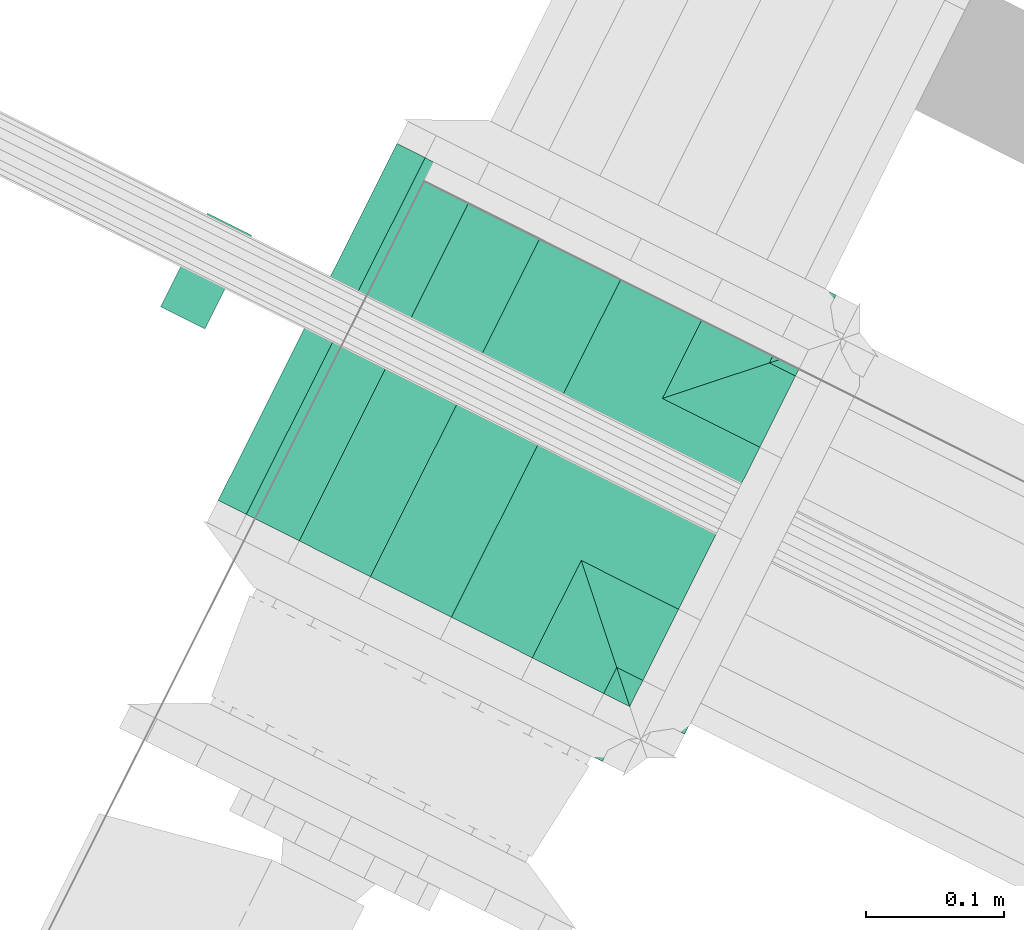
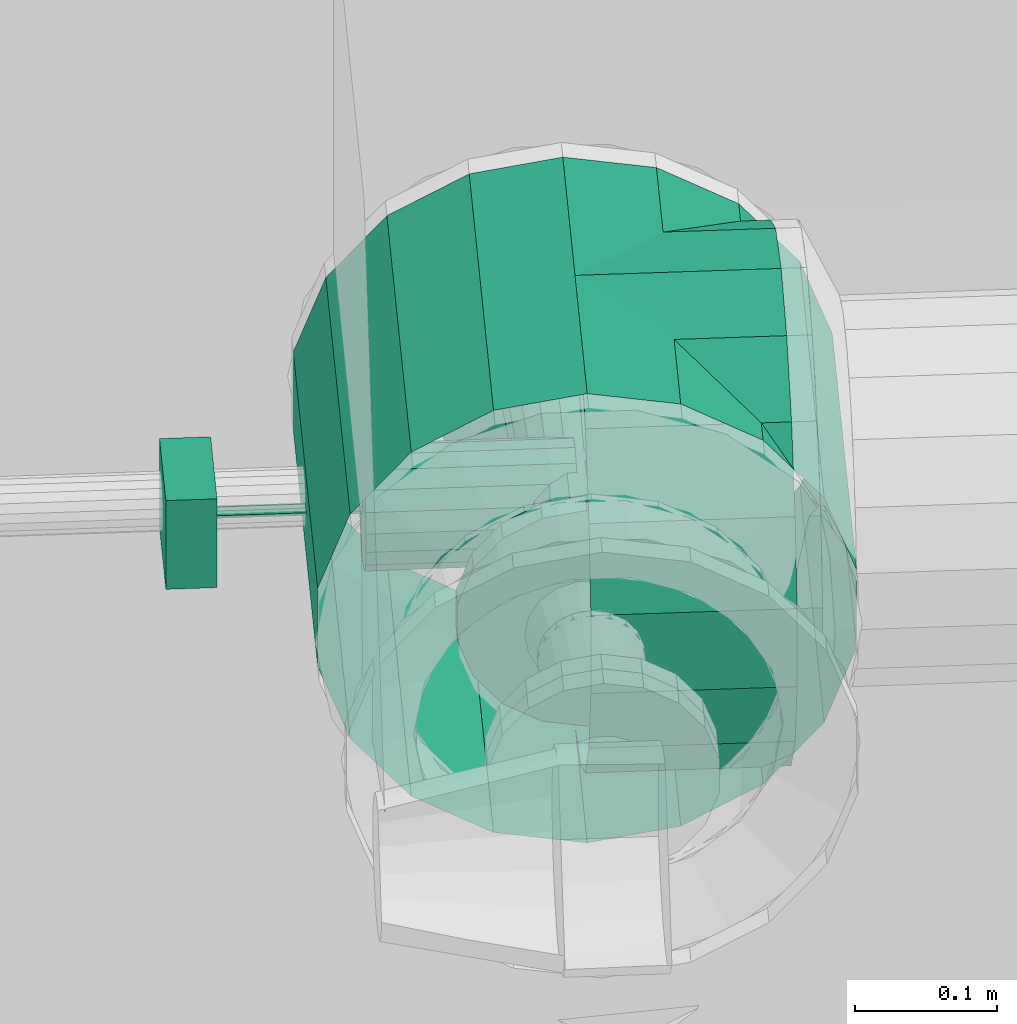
# One storey, part 149 of 206: 1 flow controller.
"""IFC2X3 building model written with IfcOpenShell, lengths in metres."""

from ifc_helpers import new_model, si_unit, derived_unit, direction, frame, origin, place, context, subcontext, project, spatial, face_set, surface_model, source, transform, mapped, material, type_object, type_shapes, element, save


model = new_model("IFC2X3")

# Units and contexts
model_context = context("Model", 3, precision=5.2338327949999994e-05, world=origin(), true_north=direction((0.0, 1.0)))
body_context = subcontext(model_context, "Body", "Model", "MODEL_VIEW")
ifc_project = project(units=[si_unit("LENGTHUNIT", "METRE"), si_unit("AREAUNIT", "SQUARE_METRE"), si_unit("VOLUMEUNIT", "CUBIC_METRE"), si_unit("MASSUNIT", "GRAM", prefix="KILO"), si_unit("PLANEANGLEUNIT", "RADIAN"), derived_unit("THERMALTRANSMITTANCEUNIT", [(si_unit("MASSUNIT", "GRAM", prefix="KILO"), 1), (si_unit("THERMODYNAMICTEMPERATUREUNIT", "KELVIN"), -1), (si_unit("TIMEUNIT", "SECOND"), -3)])], contexts=[model_context])

# Site, building, storey
site_placement = place(None, frame((0.0, 0.0, 0.0), z_axis=(0.0, 0.0, 1.0), x_axis=(0.8939966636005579, -0.4480736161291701, 0.0)))
site = spatial("IfcSite", under=ifc_project, at=site_placement, Name="Default", CompositionType="ELEMENT")
building_placement = place(site_placement, origin())
building = spatial("IfcBuilding", under=site, at=building_placement, CompositionType="ELEMENT")
storey_placement = place(building_placement, origin())
storey = spatial("IfcBuildingStorey", under=building, at=storey_placement, Name="Erdgeschoss", CompositionType="ELEMENT", Elevation=0.0)

# Flow controller
ifc_material = material(Name="IfcSurfaceStyle #1741")
distribution_element_type = type_object("IfcDistributionElementType", Name="Dreiwegeventil 323126:Dreiwegeventil 323126", material=ifc_material)
shared_shape = source(origin(), body_context, "Body", "SurfaceModel", [
    surface_model("IfcFaceBasedSurfaceModel", [(29.706127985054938, 9.66936948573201, 2.35205), (29.706127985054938, 9.745469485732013, 2.35205), (29.706127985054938, 9.745469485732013, 2.2759500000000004), (29.706127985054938, 9.66936948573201, 2.2759500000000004), (29.670127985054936, 9.745469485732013, 2.27595), (29.670127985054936, 9.66936948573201, 2.27595), (29.670127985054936, 9.745469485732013, 2.35205), (29.670127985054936, 9.66936948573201, 2.35205), (29.960127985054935, 9.562419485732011, 2.2215), (29.928491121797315, 9.562419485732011, 2.227078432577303), (29.928491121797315, 9.58041948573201, 2.227078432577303), (29.960127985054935, 9.58041948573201, 2.2215), (29.900670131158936, 9.562419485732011, 2.2431408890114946), (29.900670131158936, 9.58041948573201, 2.2431408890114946), (29.88002063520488, 9.562419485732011, 2.267750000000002), (29.88002063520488, 9.58041948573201, 2.267750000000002), (29.869033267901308, 9.562419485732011, 2.2979375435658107), (29.869033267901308, 9.58041948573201, 2.2979375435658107), (29.869033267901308, 9.562419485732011, 2.330062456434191), (29.869033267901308, 9.58041948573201, 2.330062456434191), (29.88002063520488, 9.562419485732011, 2.360249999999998), (29.88002063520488, 9.58041948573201, 2.360249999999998), (29.900670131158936, 9.562419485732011, 2.3848591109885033), (29.900670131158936, 9.58041948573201, 2.3848591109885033), (29.928491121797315, 9.562419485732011, 2.4009215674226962), (29.928491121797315, 9.58041948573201, 2.4009215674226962), (29.960127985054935, 9.562419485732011, 2.4065), (29.960127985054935, 9.58041948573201, 2.4065), (29.991764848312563, 9.562419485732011, 2.4009215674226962), (29.991764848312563, 9.58041948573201, 2.4009215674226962), (30.019585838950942, 9.562419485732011, 2.3848591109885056), (30.019585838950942, 9.58041948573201, 2.3848591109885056), (30.040235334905, 9.562419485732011, 2.360250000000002), (30.040235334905, 9.58041948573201, 2.360250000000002), (30.051222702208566, 9.562419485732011, 2.330062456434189), (30.051222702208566, 9.58041948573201, 2.330062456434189), (30.051222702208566, 9.562419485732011, 2.2979375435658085), (30.051222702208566, 9.58041948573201, 2.2979375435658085), (30.040235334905, 9.562419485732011, 2.267749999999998), (30.040235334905, 9.58041948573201, 2.267749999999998), (30.019585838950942, 9.562419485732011, 2.2431408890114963), (30.019585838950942, 9.58041948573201, 2.2431408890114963), (29.991764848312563, 9.562419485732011, 2.227078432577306), (29.991764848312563, 9.58041948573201, 2.227078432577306), (29.960127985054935, 9.562419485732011, 2.314), (29.960127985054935, 9.580419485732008, 2.314), (30.00512798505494, 9.58041948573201, 2.314), (30.00241415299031, 9.58041948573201, 2.2986090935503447), (29.99588328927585, 9.70741948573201, 2.3009861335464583), (29.99817798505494, 9.70741948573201, 2.314000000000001), (29.99459998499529, 9.58041948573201, 2.2850745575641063), (29.989275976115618, 9.70741948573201, 2.289541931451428), (29.98262798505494, 9.58041948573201, 2.2750288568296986), (29.979152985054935, 9.70741948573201, 2.2810477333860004), (29.96794215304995, 9.58041948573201, 2.2696836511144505), (29.966735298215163, 9.70741948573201, 2.276528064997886), (29.952313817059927, 9.58041948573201, 2.2696836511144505), (29.95352067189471, 9.70741948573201, 2.276528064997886), (29.93762798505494, 9.58041948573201, 2.2750288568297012), (29.94110298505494, 9.70741948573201, 2.2810477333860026), (29.925655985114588, 9.58041948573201, 2.285074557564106), (29.93097999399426, 9.70741948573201, 2.2895419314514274), (29.917841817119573, 9.58041948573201, 2.2986090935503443), (29.92437268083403, 9.70741948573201, 2.300986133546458), (29.915127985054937, 9.58041948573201, 2.314000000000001), (29.92207798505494, 9.70741948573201, 2.314000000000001), (29.917841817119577, 9.58041948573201, 2.3293909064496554), (29.92437268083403, 9.70741948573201, 2.3270138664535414), (29.925655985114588, 9.58041948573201, 2.3429254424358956), (29.93097999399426, 9.70741948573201, 2.338458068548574), (29.93762798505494, 9.58041948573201, 2.352971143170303), (29.94110298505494, 9.70741948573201, 2.3469522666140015), (29.952313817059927, 9.58041948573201, 2.3583163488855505), (29.95352067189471, 9.70741948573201, 2.351471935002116), (29.96794215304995, 9.58041948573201, 2.358316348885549), (29.966735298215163, 9.70741948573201, 2.3514719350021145), (29.98262798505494, 9.58041948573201, 2.352971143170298), (29.979152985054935, 9.70741948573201, 2.3469522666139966), (29.99459998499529, 9.58041948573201, 2.342925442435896), (29.989275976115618, 9.70741948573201, 2.3384580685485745), (30.00241415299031, 9.58041948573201, 2.3293909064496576), (29.99588328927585, 9.70741948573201, 2.3270138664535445), (30.00241415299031, 9.834419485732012, 2.2986090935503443), (30.005127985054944, 9.834419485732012, 2.3139999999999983), (29.99459998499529, 9.834419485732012, 2.2850745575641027), (29.982627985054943, 9.834419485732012, 2.275028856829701), (29.96794215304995, 9.834419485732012, 2.2696836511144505), (29.952313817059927, 9.834419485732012, 2.2696836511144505), (29.93762798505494, 9.834419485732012, 2.275028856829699), (29.92565598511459, 9.834419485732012, 2.285074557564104), (29.917841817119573, 9.834419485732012, 2.298609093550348), (29.915127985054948, 9.834419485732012, 2.313999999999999), (29.917841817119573, 9.834419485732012, 2.329390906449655), (29.925655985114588, 9.834419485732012, 2.3429254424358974), (29.93762798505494, 9.834419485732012, 2.352971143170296), (29.952313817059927, 9.834419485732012, 2.3583163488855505), (29.96794215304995, 9.834419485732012, 2.35831634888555), (29.982627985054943, 9.834419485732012, 2.3529711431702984), (29.99459998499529, 9.834419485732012, 2.3429254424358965), (30.002414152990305, 9.834419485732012, 2.3293909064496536), (29.960127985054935, 9.834419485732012, 2.2215), (29.928491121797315, 9.834419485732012, 2.227078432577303), (29.928491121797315, 9.85241948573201, 2.227078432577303), (29.960127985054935, 9.85241948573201, 2.2215), (29.900670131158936, 9.834419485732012, 2.2431408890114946), (29.900670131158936, 9.85241948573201, 2.2431408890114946), (29.88002063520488, 9.834419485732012, 2.267750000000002), (29.88002063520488, 9.85241948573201, 2.267750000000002), (29.869033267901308, 9.834419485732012, 2.2979375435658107), (29.869033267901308, 9.85241948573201, 2.2979375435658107), (29.869033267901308, 9.834419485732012, 2.330062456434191), (29.869033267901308, 9.85241948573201, 2.330062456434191), (29.88002063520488, 9.834419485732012, 2.360249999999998), (29.88002063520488, 9.85241948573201, 2.360249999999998), (29.900670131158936, 9.834419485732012, 2.3848591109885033), (29.900670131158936, 9.85241948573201, 2.3848591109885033), (29.928491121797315, 9.834419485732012, 2.4009215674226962), (29.928491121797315, 9.85241948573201, 2.4009215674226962), (29.960127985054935, 9.834419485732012, 2.4065), (29.960127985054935, 9.85241948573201, 2.4065), (29.991764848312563, 9.834419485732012, 2.4009215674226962), (29.991764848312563, 9.85241948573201, 2.4009215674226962), (30.019585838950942, 9.834419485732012, 2.3848591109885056), (30.019585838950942, 9.85241948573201, 2.3848591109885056), (30.040235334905, 9.834419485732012, 2.360250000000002), (30.040235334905, 9.85241948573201, 2.360250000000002), (30.051222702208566, 9.834419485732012, 2.330062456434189), (30.051222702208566, 9.85241948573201, 2.330062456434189), (30.051222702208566, 9.834419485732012, 2.2979375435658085), (30.051222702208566, 9.85241948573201, 2.2979375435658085), (30.040235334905, 9.834419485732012, 2.267749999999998), (30.040235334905, 9.85241948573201, 2.267749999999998), (30.019585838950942, 9.834419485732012, 2.2431408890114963), (30.019585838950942, 9.85241948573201, 2.2431408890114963), (29.991764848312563, 9.834419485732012, 2.227078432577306), (29.991764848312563, 9.85241948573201, 2.227078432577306), (29.960127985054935, 9.83441948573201, 2.314), (29.960127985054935, 9.85241948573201, 2.314), (29.960127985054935, 9.70741948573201, 2.269), (29.960127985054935, 9.692028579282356, 2.271713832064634), (29.810627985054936, 9.692028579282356, 2.271713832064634), (29.810627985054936, 9.70741948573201, 2.269), (29.960127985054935, 9.678494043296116, 2.279528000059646), (29.810627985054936, 9.678494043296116, 2.279528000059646), (29.960127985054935, 9.66844834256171, 2.291499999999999), (29.810627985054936, 9.66844834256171, 2.291499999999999), (29.960127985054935, 9.66310313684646, 2.3061858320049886), (29.810627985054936, 9.66310313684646, 2.3061858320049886), (29.960127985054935, 9.66310313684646, 2.321814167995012), (29.810627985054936, 9.66310313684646, 2.321814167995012), (29.960127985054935, 9.66844834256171, 2.3365000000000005), (29.810627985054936, 9.66844834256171, 2.3365000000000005), (29.960127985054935, 9.678494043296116, 2.3484719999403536), (29.810627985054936, 9.678494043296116, 2.3484719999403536), (29.960127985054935, 9.692028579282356, 2.356286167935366), (29.810627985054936, 9.692028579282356, 2.356286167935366), (29.960127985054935, 9.70741948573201, 2.3589999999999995), (29.810627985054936, 9.70741948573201, 2.3589999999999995), (29.960127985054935, 9.722810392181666, 2.356286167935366), (29.810627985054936, 9.722810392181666, 2.356286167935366), (29.960127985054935, 9.736344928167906, 2.348471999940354), (29.810627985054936, 9.736344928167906, 2.348471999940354), (29.960127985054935, 9.746390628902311, 2.3364999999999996), (29.810627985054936, 9.746390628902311, 2.3364999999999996), (29.960127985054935, 9.751735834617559, 2.321814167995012), (29.810627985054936, 9.751735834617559, 2.321814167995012), (29.960127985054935, 9.751735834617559, 2.306185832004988), (29.810627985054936, 9.751735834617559, 2.306185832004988), (29.960127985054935, 9.746390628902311, 2.2915), (29.810627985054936, 9.746390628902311, 2.2915), (29.960127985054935, 9.736344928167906, 2.2795280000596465), (29.810627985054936, 9.736344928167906, 2.2795280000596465), (29.960127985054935, 9.722810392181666, 2.271713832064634), (29.810627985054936, 9.722810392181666, 2.271713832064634), (29.960127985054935, 9.70741948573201, 2.314), (29.810627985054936, 9.70741948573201, 2.314), (29.810627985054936, 9.70741948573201, 2.309499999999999), (29.810627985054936, 9.704237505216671, 2.31081801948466), (29.706127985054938, 9.704237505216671, 2.31081801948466), (29.706127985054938, 9.70741948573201, 2.309499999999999), (29.810627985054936, 9.70291948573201, 2.3139999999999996), (29.706127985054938, 9.70291948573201, 2.3139999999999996), (29.810627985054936, 9.704237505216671, 2.31718198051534), (29.706127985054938, 9.704237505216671, 2.31718198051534), (29.810627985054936, 9.70741948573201, 2.3185000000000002), (29.706127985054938, 9.70741948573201, 2.3185000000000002), (29.810627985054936, 9.71060146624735, 2.3171819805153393), (29.706127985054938, 9.71060146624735, 2.3171819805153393), (29.810627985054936, 9.711919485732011, 2.3140000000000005), (29.706127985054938, 9.711919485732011, 2.3140000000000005), (29.810627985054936, 9.71060146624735, 2.31081801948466), (29.706127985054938, 9.71060146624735, 2.31081801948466), (29.706127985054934, 9.707419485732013, 2.314), (29.960127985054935, 9.66936948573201, 2.3139999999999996), (29.960127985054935, 9.671664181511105, 2.300986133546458), (30.087127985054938, 9.665133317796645, 2.2986090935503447), (30.087127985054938, 9.662419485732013, 2.3140000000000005), (29.960127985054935, 9.678271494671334, 2.289541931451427), (30.087127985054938, 9.672947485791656, 2.285074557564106), (29.960127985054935, 9.68839448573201, 2.2810477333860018), (30.087127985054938, 9.684919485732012, 2.2750288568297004), (29.960127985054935, 9.700812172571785, 2.276528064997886), (30.087127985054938, 9.699605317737, 2.2696836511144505), (29.960127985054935, 9.714026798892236, 2.2765280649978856), (30.087127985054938, 9.715233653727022, 2.2696836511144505), (29.960127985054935, 9.72644448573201, 2.2810477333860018), (30.087127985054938, 9.72991948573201, 2.275028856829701), (29.960127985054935, 9.736567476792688, 2.2895419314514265), (30.087127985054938, 9.741891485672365, 2.2850745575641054), (29.960127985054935, 9.743174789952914, 2.3009861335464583), (30.087127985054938, 9.749705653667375, 2.2986090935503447), (29.960127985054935, 9.74546948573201, 2.3139999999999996), (30.087127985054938, 9.752419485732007, 2.314), (29.960127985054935, 9.743174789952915, 2.327013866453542), (30.087127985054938, 9.749705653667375, 2.3293909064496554), (29.960127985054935, 9.736567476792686, 2.3384580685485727), (30.087127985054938, 9.741891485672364, 2.3429254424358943), (29.960127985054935, 9.72644448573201, 2.346952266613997), (30.087127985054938, 9.72991948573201, 2.352971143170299), (29.960127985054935, 9.714026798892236, 2.3514719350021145), (30.087127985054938, 9.715233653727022, 2.35831634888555), (29.960127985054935, 9.700812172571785, 2.351471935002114), (30.087127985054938, 9.699605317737, 2.3583163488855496), (29.960127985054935, 9.688394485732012, 2.346952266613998), (30.087127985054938, 9.684919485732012, 2.3529711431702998), (29.960127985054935, 9.678271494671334, 2.3384580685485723), (30.087127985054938, 9.672947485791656, 2.342925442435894), (29.960127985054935, 9.671664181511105, 2.327013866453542), (30.087127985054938, 9.665133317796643, 2.329390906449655), (30.087127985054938, 9.70741948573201, 2.2215000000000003), (30.087127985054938, 9.739056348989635, 2.2270784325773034), (30.10512798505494, 9.739056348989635, 2.2270784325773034), (30.10512798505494, 9.70741948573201, 2.2215000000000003), (30.087127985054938, 9.766877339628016, 2.243140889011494), (30.10512798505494, 9.766877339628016, 2.243140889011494), (30.087127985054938, 9.78752683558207, 2.26775), (30.10512798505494, 9.78752683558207, 2.26775), (30.087127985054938, 9.798514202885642, 2.2979375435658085), (30.10512798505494, 9.798514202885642, 2.2979375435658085), (30.087127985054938, 9.798514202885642, 2.330062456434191), (30.10512798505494, 9.798514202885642, 2.330062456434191), (30.087127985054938, 9.78752683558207, 2.36025), (30.10512798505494, 9.78752683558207, 2.36025), (30.087127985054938, 9.766877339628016, 2.3848591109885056), (30.10512798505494, 9.766877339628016, 2.3848591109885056), (30.087127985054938, 9.739056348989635, 2.4009215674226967), (30.10512798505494, 9.739056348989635, 2.4009215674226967), (30.087127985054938, 9.70741948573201, 2.4065), (30.10512798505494, 9.70741948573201, 2.4065), (30.087127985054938, 9.675782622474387, 2.4009215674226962), (30.10512798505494, 9.675782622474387, 2.4009215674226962), (30.087127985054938, 9.647961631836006, 2.3848591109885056), (30.10512798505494, 9.647961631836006, 2.3848591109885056), (30.087127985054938, 9.627312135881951, 2.36025), (30.10512798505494, 9.627312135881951, 2.36025), (30.087127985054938, 9.61632476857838, 2.330062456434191), (30.10512798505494, 9.61632476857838, 2.330062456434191), (30.087127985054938, 9.61632476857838, 2.2979375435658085), (30.10512798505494, 9.61632476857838, 2.2979375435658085), (30.087127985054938, 9.627312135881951, 2.2677499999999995), (30.10512798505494, 9.627312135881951, 2.2677499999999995), (30.087127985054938, 9.647961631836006, 2.2431408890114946), (30.10512798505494, 9.647961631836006, 2.2431408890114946), (30.087127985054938, 9.675782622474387, 2.2270784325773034), (30.10512798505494, 9.675782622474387, 2.2270784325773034), (30.087127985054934, 9.70741948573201, 2.314), (30.10512798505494, 9.70741948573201, 2.314), (29.960127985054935, 9.562419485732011, 2.1215), (29.894289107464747, 9.562419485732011, 2.1331091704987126), (29.894289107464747, 9.85241948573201, 2.1331091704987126), (29.960127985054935, 9.85241948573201, 2.1215), (29.83639137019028, 9.562419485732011, 2.1665364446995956), (29.83639137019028, 9.85241948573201, 2.1665364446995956), (29.793418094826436, 9.562419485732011, 2.217749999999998), (29.793418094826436, 9.85241948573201, 2.217749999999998), (29.77055249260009, 9.562419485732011, 2.2805727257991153), (29.77055249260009, 9.85241948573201, 2.2805727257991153), (29.77055249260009, 9.562419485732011, 2.3474272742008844), (29.77055249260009, 9.85241948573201, 2.3474272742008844), (29.793418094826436, 9.562419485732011, 2.4102499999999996), (29.793418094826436, 9.85241948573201, 2.4102499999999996), (29.83639137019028, 9.562419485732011, 2.461463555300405), (29.83639137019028, 9.85241948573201, 2.461463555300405), (29.894289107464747, 9.562419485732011, 2.494890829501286), (29.894289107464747, 9.85241948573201, 2.494890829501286), (29.960127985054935, 9.562419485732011, 2.5065000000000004), (29.960127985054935, 9.85241948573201, 2.5065000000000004), (30.02596686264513, 9.562419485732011, 2.4948908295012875), (30.02596686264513, 9.85241948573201, 2.4948908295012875), (30.083864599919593, 9.562419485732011, 2.461463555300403), (30.083864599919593, 9.85241948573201, 2.461463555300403), (30.126837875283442, 9.562419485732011, 2.4102499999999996), (30.126837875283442, 9.85241948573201, 2.4102499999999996), (30.149703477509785, 9.562419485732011, 2.347427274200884), (30.149703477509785, 9.85241948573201, 2.347427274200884), (30.149703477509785, 9.562419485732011, 2.280572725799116), (30.149703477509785, 9.85241948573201, 2.280572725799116), (30.126837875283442, 9.562419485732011, 2.21775), (30.126837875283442, 9.85241948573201, 2.21775), (30.083864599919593, 9.562419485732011, 2.166536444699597), (30.083864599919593, 9.85241948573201, 2.166536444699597), (30.02596686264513, 9.562419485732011, 2.1331091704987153), (30.02596686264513, 9.85241948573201, 2.1331091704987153), (29.960127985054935, 9.70741948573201, 2.1215000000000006), (29.960127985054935, 9.773258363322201, 2.133109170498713), (30.10512798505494, 9.773258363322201, 2.133109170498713), (30.10512798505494, 9.70741948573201, 2.1215000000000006), (29.960127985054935, 9.831156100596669, 2.166536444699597), (30.10512798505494, 9.831156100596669, 2.166536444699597), (29.960127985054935, 9.874129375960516, 2.2177499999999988), (30.10512798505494, 9.874129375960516, 2.2177499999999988), (29.960127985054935, 9.89699497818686, 2.2805727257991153), (30.10512798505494, 9.89699497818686, 2.2805727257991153), (29.960127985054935, 9.89699497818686, 2.347427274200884), (30.10512798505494, 9.89699497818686, 2.347427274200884), (29.960127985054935, 9.874129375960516, 2.4102499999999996), (30.10512798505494, 9.874129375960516, 2.4102499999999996), (29.960127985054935, 9.831156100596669, 2.4614635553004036), (30.10512798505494, 9.831156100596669, 2.4614635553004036), (29.960127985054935, 9.773258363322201, 2.4948908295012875), (30.10512798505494, 9.773258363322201, 2.4948908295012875), (29.960127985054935, 9.70741948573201, 2.5065), (30.10512798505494, 9.70741948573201, 2.5065), (29.960127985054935, 9.641580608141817, 2.494890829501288), (30.10512798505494, 9.641580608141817, 2.494890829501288), (29.960127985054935, 9.583682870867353, 2.461463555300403), (30.10512798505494, 9.583682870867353, 2.461463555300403), (29.960127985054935, 9.540709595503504, 2.410249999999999), (30.10512798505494, 9.540709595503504, 2.410249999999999), (29.960127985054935, 9.517843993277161, 2.3474272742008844), (30.10512798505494, 9.517843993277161, 2.3474272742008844), (29.960127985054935, 9.517843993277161, 2.280572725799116), (30.10512798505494, 9.517843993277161, 2.280572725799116), (29.960127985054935, 9.540709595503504, 2.21775), (30.10512798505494, 9.540709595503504, 2.21775), (29.960127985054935, 9.583682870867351, 2.166536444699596), (30.10512798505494, 9.583682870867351, 2.166536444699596), (29.960127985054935, 9.641580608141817, 2.1331091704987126), (30.10512798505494, 9.641580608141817, 2.1331091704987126)], [face_set([[[0, 1, 2, 3]], [[3, 2, 4, 5]], [[5, 4, 6, 7]], [[7, 6, 1, 0]], [[0, 3, 5, 7]], [[6, 4, 2, 1]], [[8, 9, 10, 11]], [[9, 12, 13, 10]], [[12, 14, 15, 13]], [[14, 16, 17, 15]], [[16, 18, 19, 17]], [[18, 20, 21, 19]], [[20, 22, 23, 21]], [[22, 24, 25, 23]], [[24, 26, 27, 25]], [[26, 28, 29, 27]], [[28, 30, 31, 29]], [[30, 32, 33, 31]], [[32, 34, 35, 33]], [[34, 36, 37, 35]], [[36, 38, 39, 37]], [[38, 40, 41, 39]], [[40, 42, 43, 41]], [[42, 8, 11, 43]], [[44, 9, 8]], [[44, 12, 9]], [[44, 14, 12]], [[44, 16, 14]], [[44, 18, 16]], [[44, 20, 18]], [[44, 22, 20]], [[44, 24, 22]], [[44, 26, 24]], [[44, 28, 26]], [[44, 30, 28]], [[44, 32, 30]], [[44, 34, 32]], [[44, 36, 34]], [[44, 38, 36]], [[44, 40, 38]], [[44, 42, 40]], [[44, 8, 42]], [[45, 43, 11]], [[45, 41, 43]], [[45, 39, 41]], [[45, 37, 39]], [[45, 35, 37]], [[45, 33, 35]], [[45, 31, 33]], [[45, 29, 31]], [[45, 27, 29]], [[45, 25, 27]], [[45, 23, 25]], [[45, 21, 23]], [[45, 19, 21]], [[45, 17, 19]], [[45, 15, 17]], [[45, 13, 15]], [[45, 10, 13]], [[45, 11, 10]], [[46, 47, 48, 49]], [[47, 50, 51, 48]], [[50, 52, 53, 51]], [[52, 54, 55, 53]], [[54, 56, 57, 55]], [[56, 58, 59, 57]], [[58, 60, 61, 59]], [[60, 62, 63, 61]], [[62, 64, 65, 63]], [[64, 66, 67, 65]], [[66, 68, 69, 67]], [[68, 70, 71, 69]], [[70, 72, 73, 71]], [[72, 74, 75, 73]], [[74, 76, 77, 75]], [[76, 78, 79, 77]], [[78, 80, 81, 79]], [[80, 46, 49, 81]], [[49, 48, 82, 83]], [[48, 51, 84, 82]], [[51, 53, 85, 84]], [[53, 55, 86, 85]], [[55, 57, 87, 86]], [[57, 59, 88, 87]], [[59, 61, 89, 88]], [[61, 63, 90, 89]], [[63, 65, 91, 90]], [[65, 67, 92, 91]], [[67, 69, 93, 92]], [[69, 71, 94, 93]], [[71, 73, 95, 94]], [[73, 75, 96, 95]], [[75, 77, 97, 96]], [[77, 79, 98, 97]], [[79, 81, 99, 98]], [[81, 49, 83, 99]], [[100, 101, 102, 103]], [[101, 104, 105, 102]], [[104, 106, 107, 105]], [[106, 108, 109, 107]], [[108, 110, 111, 109]], [[110, 112, 113, 111]], [[112, 114, 115, 113]], [[114, 116, 117, 115]], [[116, 118, 119, 117]], [[118, 120, 121, 119]], [[120, 122, 123, 121]], [[122, 124, 125, 123]], [[124, 126, 127, 125]], [[126, 128, 129, 127]], [[128, 130, 131, 129]], [[130, 132, 133, 131]], [[132, 134, 135, 133]], [[134, 100, 103, 135]], [[136, 101, 100]], [[136, 104, 101]], [[136, 106, 104]], [[136, 108, 106]], [[136, 110, 108]], [[136, 112, 110]], [[136, 114, 112]], [[136, 116, 114]], [[136, 118, 116]], [[136, 120, 118]], [[136, 122, 120]], [[136, 124, 122]], [[136, 126, 124]], [[136, 128, 126]], [[136, 130, 128]], [[136, 132, 130]], [[136, 134, 132]], [[136, 100, 134]], [[137, 135, 103]], [[137, 133, 135]], [[137, 131, 133]], [[137, 129, 131]], [[137, 127, 129]], [[137, 125, 127]], [[137, 123, 125]], [[137, 121, 123]], [[137, 119, 121]], [[137, 117, 119]], [[137, 115, 117]], [[137, 113, 115]], [[137, 111, 113]], [[137, 109, 111]], [[137, 107, 109]], [[137, 105, 107]], [[137, 102, 105]], [[137, 103, 102]], [[138, 139, 140, 141]], [[139, 142, 143, 140]], [[142, 144, 145, 143]], [[144, 146, 147, 145]], [[146, 148, 149, 147]], [[148, 150, 151, 149]], [[150, 152, 153, 151]], [[152, 154, 155, 153]], [[154, 156, 157, 155]], [[156, 158, 159, 157]], [[158, 160, 161, 159]], [[160, 162, 163, 161]], [[162, 164, 165, 163]], [[164, 166, 167, 165]], [[166, 168, 169, 167]], [[168, 170, 171, 169]], [[170, 172, 173, 171]], [[172, 138, 141, 173]], [[174, 139, 138]], [[174, 142, 139]], [[174, 144, 142]], [[174, 146, 144]], [[174, 148, 146]], [[174, 150, 148]], [[174, 152, 150]], [[174, 154, 152]], [[174, 156, 154]], [[174, 158, 156]], [[174, 160, 158]], [[174, 162, 160]], [[174, 164, 162]], [[174, 166, 164]], [[174, 168, 166]], [[174, 170, 168]], [[174, 172, 170]], [[174, 138, 172]], [[175, 173, 141]], [[175, 171, 173]], [[175, 169, 171]], [[175, 167, 169]], [[175, 165, 167]], [[175, 163, 165]], [[175, 161, 163]], [[175, 159, 161]], [[175, 157, 159]], [[175, 155, 157]], [[175, 153, 155]], [[175, 151, 153]], [[175, 149, 151]], [[175, 147, 149]], [[175, 145, 147]], [[175, 143, 145]], [[175, 140, 143]], [[175, 141, 140]], [[176, 177, 178, 179]], [[177, 180, 181, 178]], [[180, 182, 183, 181]], [[182, 184, 185, 183]], [[184, 186, 187, 185]], [[186, 188, 189, 187]], [[188, 190, 191, 189]], [[190, 176, 179, 191]], [[192, 191, 179]], [[192, 189, 191]], [[192, 187, 189]], [[192, 185, 187]], [[192, 183, 185]], [[192, 181, 183]], [[192, 178, 181]], [[192, 179, 178]], [[193, 194, 195, 196]], [[194, 197, 198, 195]], [[197, 199, 200, 198]], [[199, 201, 202, 200]], [[201, 203, 204, 202]], [[203, 205, 206, 204]], [[205, 207, 208, 206]], [[207, 209, 210, 208]], [[209, 211, 212, 210]], [[211, 213, 214, 212]], [[213, 215, 216, 214]], [[215, 217, 218, 216]], [[217, 219, 220, 218]], [[219, 221, 222, 220]], [[221, 223, 224, 222]], [[223, 225, 226, 224]], [[225, 227, 228, 226]], [[227, 193, 196, 228]], [[229, 230, 231, 232]], [[230, 233, 234, 231]], [[233, 235, 236, 234]], [[235, 237, 238, 236]], [[237, 239, 240, 238]], [[239, 241, 242, 240]], [[241, 243, 244, 242]], [[243, 245, 246, 244]], [[245, 247, 248, 246]], [[247, 249, 250, 248]], [[249, 251, 252, 250]], [[251, 253, 254, 252]], [[253, 255, 256, 254]], [[255, 257, 258, 256]], [[257, 259, 260, 258]], [[259, 261, 262, 260]], [[261, 263, 264, 262]], [[263, 229, 232, 264]], [[265, 230, 229]], [[265, 233, 230]], [[265, 235, 233]], [[265, 237, 235]], [[265, 239, 237]], [[265, 241, 239]], [[265, 243, 241]], [[265, 245, 243]], [[265, 247, 245]], [[265, 249, 247]], [[265, 251, 249]], [[265, 253, 251]], [[265, 255, 253]], [[265, 257, 255]], [[265, 259, 257]], [[265, 261, 259]], [[265, 263, 261]], [[265, 229, 263]], [[266, 264, 232]], [[266, 262, 264]], [[266, 260, 262]], [[266, 258, 260]], [[266, 256, 258]], [[266, 254, 256]], [[266, 252, 254]], [[266, 250, 252]], [[266, 248, 250]], [[266, 246, 248]], [[266, 244, 246]], [[266, 242, 244]], [[266, 240, 242]], [[266, 238, 240]], [[266, 236, 238]], [[266, 234, 236]], [[266, 231, 234]], [[266, 232, 231]], [[267, 268, 269, 270]], [[268, 271, 272, 269]], [[271, 273, 274, 272]], [[273, 275, 276, 274]], [[275, 277, 278, 276]], [[277, 279, 280, 278]], [[279, 281, 282, 280]], [[281, 283, 284, 282]], [[283, 285, 286, 284]], [[285, 287, 288, 286]], [[287, 289, 290, 288]], [[289, 291, 292, 290]], [[291, 293, 294, 292]], [[293, 295, 296, 294]], [[295, 297, 298, 296]], [[297, 299, 300, 298]], [[299, 301, 302, 300]], [[301, 267, 270, 302]], [[303, 304, 305, 306]], [[304, 307, 308, 305]], [[307, 309, 310, 308]], [[309, 311, 312, 310]], [[311, 313, 314, 312]], [[313, 315, 316, 314]], [[315, 317, 318, 316]], [[317, 319, 320, 318]], [[319, 321, 322, 320]], [[321, 323, 324, 322]], [[323, 325, 326, 324]], [[325, 327, 328, 326]], [[327, 329, 330, 328]], [[329, 331, 332, 330]], [[331, 333, 334, 332]], [[333, 335, 336, 334]], [[335, 337, 338, 336]], [[337, 303, 306, 338]]])]),
])
type_shapes(distribution_element_type, [shared_shape])
flow_controller_placement = place(storey_placement, origin())
element("IfcFlowController", 1, at=flow_controller_placement, inside=storey, type_object=distribution_element_type, material=ifc_material, Name="Dreiwegeventil", ObjectType="Dreiwegeventil", context=body_context, shape_type="MappedRepresentation", body=[
    mapped(shared_shape, transform((0.0, 0.0, 0.0), scale=1.0)),
])

save(model, "model.ifc")
